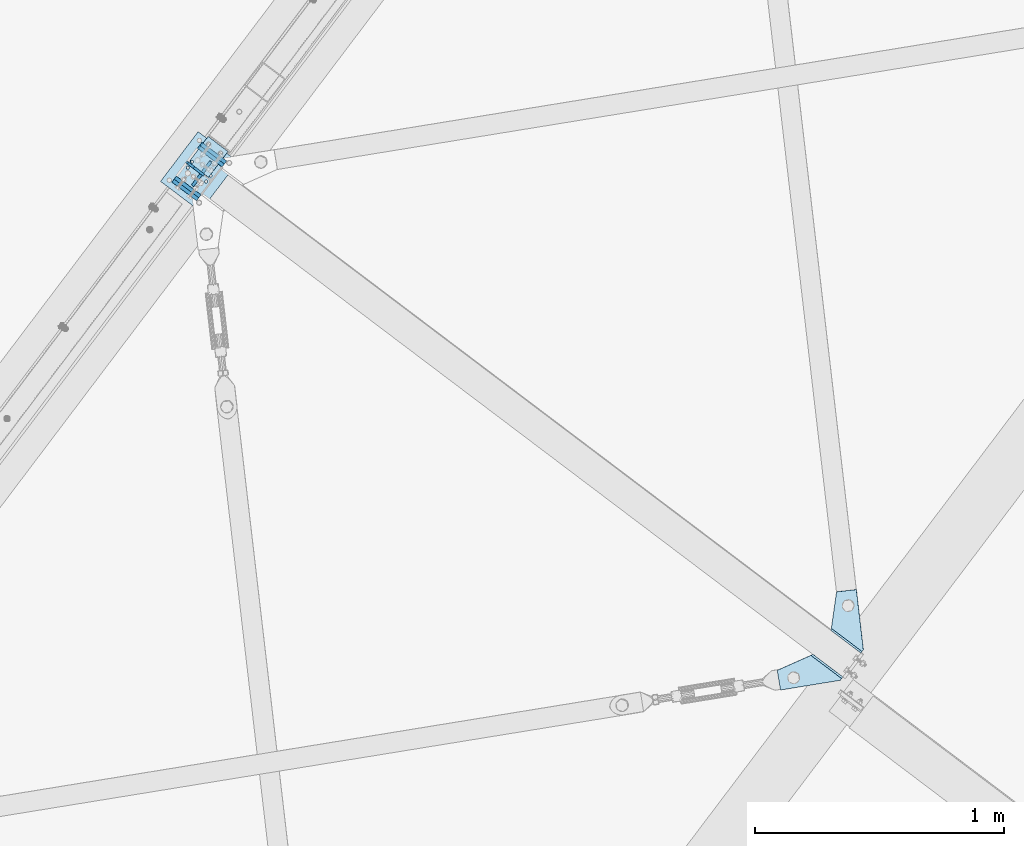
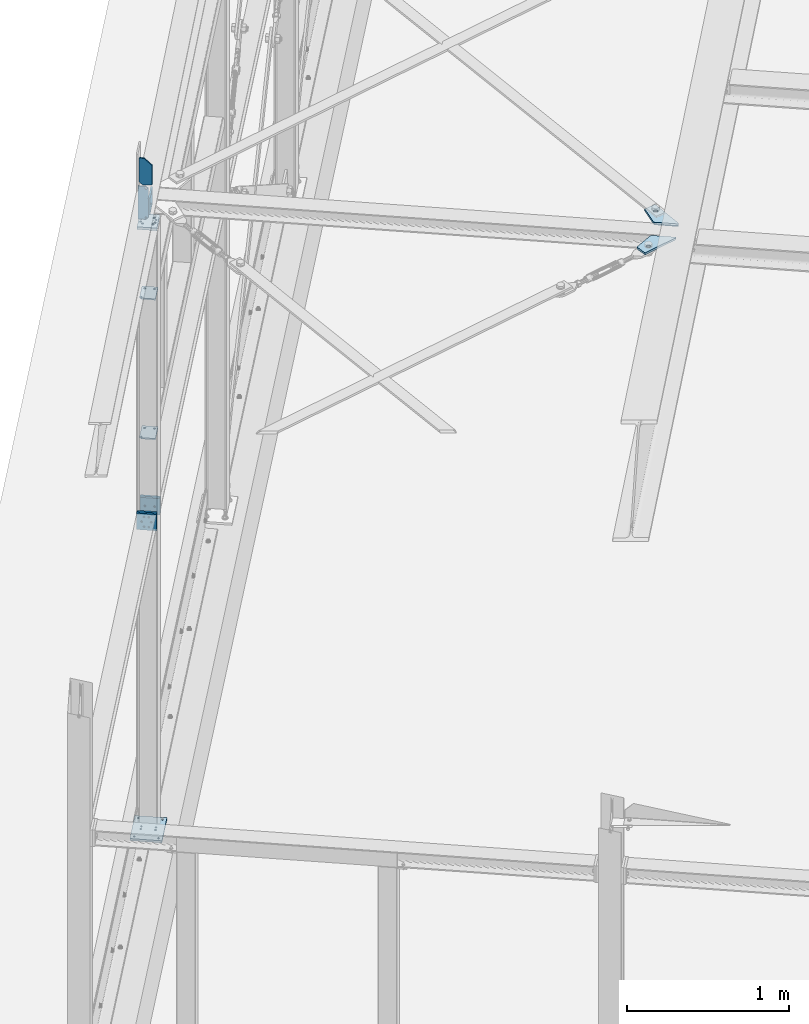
# One storey, part 56 of 476: 13 plates, 56 openings.
"""IFC2X3 building model written with IfcOpenShell, lengths in millimetres."""

from ifc_helpers import new_model, entity, si_unit, converted_unit, point, frame, frame_2d, origin, origin_with_axes, origin_2d_with_axis, place, context, project, spatial, polyline, circle_curve, line_curve, trimmed, segment, composite_curve, circle, outline, extrude, material, layer, layer_set, element, save


model = new_model("IFC2X3")

# Units and contexts
model_context = context("Model", 3, precision=1e-09, world=origin_with_axes())
ifc_project = project(units=[si_unit("LENGTHUNIT", "METRE", prefix="MILLI"), si_unit("AREAUNIT", "SQUARE_METRE"), si_unit("VOLUMEUNIT", "CUBIC_METRE"), converted_unit("PLANEANGLEUNIT", "DEGREE", entity("IfcPlaneAngleMeasure", 0.01745329), si_unit("PLANEANGLEUNIT", "RADIAN"), dimensions=[0, 0, 0, 0, 0, 0, 0])], contexts=[model_context])

# Site, building, storey
site_placement = place(None, origin_with_axes())
site = spatial("IfcSite", under=ifc_project, at=site_placement, Name="mKR Teilneubau & Sanierung BA1 - Ostfildern", CompositionType="ELEMENT")
building_placement = place(site_placement, origin_with_axes())
building = spatial("IfcBuilding", under=site, at=building_placement, Name="Struktur 1", CompositionType="ELEMENT")
storey_placement = place(building_placement, origin_with_axes())
storey = spatial("IfcBuildingStorey", under=building, at=storey_placement, Name="Default Storey", CompositionType="ELEMENT", Elevation=0.0)

# Plate, openings
ifc_material = material(Name="S235JR")
ifc_layer_1 = layer(ifc_material, 15.0)
ifc_layer_set_1 = layer_set([ifc_layer_1], Name="S235JR")
plate_1_placement = place(None, frame((4978.527899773, 855.35805484, 5319.737987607), z_axis=(-0.018098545, -0.02396011, 0.999549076), x_axis=(0.602462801, 0.797581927, 0.030027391)))
plate_1 = element("IfcPlate", 1, at=plate_1_placement, inside=storey, material=ifc_layer_set_1, Name="-", ObjectType="-", context=model_context, shape_type="SweptSolid", body=[
    extrude(outline(polyline([(0.0, 0.0), (16.761939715, 0.0), (192.636873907, 167.974256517), (137.382787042, 225.827096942), (1.572e-05, 149.999963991), (0.0, 0.0)])), origin_with_axes(), (0.0, 0.0, -1.0), 15.0),
])
opening_1_placement = place(plate_1_placement, frame((0.0, -0.000999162, 0.0), z_axis=(1.05e-07, 1.0, 0.0), x_axis=(1.0, -1.05e-07, 0.0)))
element("IfcOpeningElement", 2, at=opening_1_placement, cuts=plate_1, ObjectType="Opening", context=model_context, shape_type="SweptSolid", body=[
    extrude(outline(polyline([(0.0, 0.0), (8.0, 0.0), (0.0, 8.0), (0.0, 0.0)])), origin(), (0.0, 0.0, 1.0), 154.437489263),
])
opening_2_placement = place(plate_1_placement, frame((121.62025065, 155.460173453, -15.499849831), z_axis=(-7.613e-06, -7.271e-06, 1.0), x_axis=(-0.723163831, -0.690676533, -1.0527e-05)))
element("IfcOpeningElement", 3, at=opening_2_placement, cuts=plate_1, ObjectType="Opening", context=model_context, shape_type="SweptSolid", body=[
    extrude(circle(Radius=14.501, at=origin_2d_with_axis()), origin(), (0.0, 0.0, 1.0), 16.000000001),
])

plate_2_placement = place(None, frame((4906.231146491, 759.647099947, 5316.134651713), z_axis=(0.018098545, 0.02396011, -0.999549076), x_axis=(-0.602462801, -0.797581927, -0.030027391)))
plate_2 = element("IfcPlate", 4, at=plate_2_placement, inside=storey, material=ifc_layer_set_1, Name="-", ObjectType="-", context=model_context, shape_type="SweptSolid", body=[
    extrude(outline(polyline([(0.0, 0.0), (16.761939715, 0.0), (192.636873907, 167.974256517), (137.382787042, 225.827096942), (1.572e-05, 149.999963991), (0.0, 0.0)])), origin_with_axes(), (0.0, 0.0, 1.0), 15.0),
])
opening_3_placement = place(plate_2_placement, frame((1.6183e-05, 154.416490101, 0.0), z_axis=(-1.05e-07, -1.0, 0.0), x_axis=(1.0, -1.05e-07, 0.0)))
element("IfcOpeningElement", 5, at=opening_3_placement, cuts=plate_2, ObjectType="Opening", context=model_context, shape_type="SweptSolid", body=[
    extrude(outline(polyline([(0.0, 0.0), (8.0, 0.0), (0.0, 8.0), (0.0, 0.0)])), origin(), (0.0, 0.0, 1.0), 154.437489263),
])
opening_4_placement = place(plate_2_placement, frame((132.106849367, 165.475673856, 15.499697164), z_axis=(7.613e-06, 7.271e-06, 1.0), x_axis=(1.0, 0.0, -7.613e-06)))
element("IfcOpeningElement", 6, at=opening_4_placement, cuts=plate_2, ObjectType="Opening", context=model_context, shape_type="SweptSolid", body=[
    extrude(circle(Radius=14.501, at=frame_2d((-10.486598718, -10.015500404), x_axis=(1.0, 0.0))), origin(), (0.0, 0.0, -1.0), 16.000000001),
])

ifc_layer_2 = layer(ifc_material, 10.0)
ifc_layer_set_2 = layer_set([ifc_layer_2], Name="S235JR")
plate_3_placement = place(None, frame((2340.313940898, 2768.899537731, 5577.488173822), z_axis=(-0.602634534, -0.798017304, 0.0), x_axis=(-0.798017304, 0.602634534, 0.0)))
plate_3 = element("IfcPlate", 7, at=plate_3_placement, inside=storey, material=ifc_layer_set_2, Name="-", ObjectType="-", context=model_context, shape_type="SweptSolid", body=[
    extrude(outline(polyline([(0.0, 0.0), (80.0, 0.0), (80.0, 200.0), (0.0, 197.595559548), (0.0, 0.0)])), origin_with_axes(), (0.0, 0.0, -1.0), 10.0),
])
opening_5_placement = place(plate_3_placement, frame((0.0, 0.0, 0.01), z_axis=(0.0, 0.0, 1.0), x_axis=(1.0, 0.0, 0.0)))
element("IfcOpeningElement", 8, at=opening_5_placement, cuts=plate_3, ObjectType="Opening", context=model_context, shape_type="SweptSolid", body=[
    extrude(outline(polyline([(0.0, 0.0), (50.0, 0.0), (0.0, 50.0), (0.0, 0.0)])), origin(), (0.0, 0.0, -1.0), 10.02),
])
opening_6_placement = place(plate_3_placement, frame((80.0, 200.0, 0.01), z_axis=(0.0, 0.0, 1.0), x_axis=(-0.999548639, -0.03004194, 0.0)))
element("IfcOpeningElement", 9, at=opening_6_placement, cuts=plate_3, ObjectType="Opening", context=model_context, shape_type="SweptSolid", body=[
    extrude(outline(polyline([(0.0, 0.0), (20.0, 0.0), (0.600838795, 19.990972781), (0.0, 0.0)])), origin(), (0.0, 0.0, -1.0), 10.02),
])

plate_4_placement = place(None, frame((2363.114522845, 2931.814026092, 4520.0), z_axis=(0.0, 0.0, 1.0), x_axis=(-0.602734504, -0.797941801, 0.0)))
plate_4 = element("IfcPlate", 10, at=plate_4_placement, inside=storey, material=ifc_layer_set_2, Name="-", ObjectType="-", context=model_context, shape_type="SweptSolid", body=[
    extrude(outline(polyline([(5.0, 0.0), (135.0, 0.0), (135.0, 100.0), (5.0, 100.0), (5.0, 0.0)])), origin_with_axes(), (0.0, 0.0, -1.0), 10.0),
])
opening_7_placement = place(plate_4_placement, frame((135.0, 0.0, 0.01), z_axis=(0.0, 0.0, 1.0), x_axis=(0.0, 1.0, 0.0)))
element("IfcOpeningElement", 11, at=opening_7_placement, cuts=plate_4, ObjectType="Opening", context=model_context, shape_type="SweptSolid", body=[
    extrude(outline(composite_curve([segment(trimmed(line_curve((0.0, 0.0), (1.0, 0.0), 13.0), [point((0.0, 0.0))], [point((13.0, 0.0))], True, "CARTESIAN"), True, "CONTINUOUS"), segment(trimmed(circle_curve(frame_2d((13.0, 13.0), x_axis=(-1.0, 0.0)), 13.0), [point((13.0, 0.0))], [point((0.0, 13.0))], False, "CARTESIAN"), True, "CONTINUOUS"), segment(trimmed(line_curve((0.0, 13.0), (0.0, -1.0), 13.0), [point((0.0, 13.0))], [point((0.0, 0.0))], True, "CARTESIAN"), True, "CONTINUOUS")], self_intersect=False)), origin(), (0.0, 0.0, -1.0), 10.02),
])
opening_8_placement = place(plate_4_placement, frame((124.0, 15.501, 0.5), z_axis=(0.0, 0.0, 1.0), x_axis=(1.0, 0.0, 0.0)))
element("IfcOpeningElement", 12, at=opening_8_placement, cuts=plate_4, ObjectType="Opening", context=model_context, shape_type="SweptSolid", body=[
    extrude(circle(Radius=5.001, at=frame_2d((0.0, -5.001), x_axis=(1.0, 0.0))), origin(), (0.0, 0.0, -1.0), 11.0),
])
opening_9_placement = place(plate_4_placement, frame((35.751, 80.0, -10.5), z_axis=(0.0, 0.0, -1.0), x_axis=(-1.0, 0.0, 0.0)))
element("IfcOpeningElement", 13, at=opening_9_placement, cuts=plate_4, ObjectType="Opening", context=model_context, shape_type="SweptSolid", body=[
    extrude(circle(Radius=7.001, at=frame_2d((7.001, 0.0), x_axis=(1.0, 0.0))), origin(), (0.0, 0.0, -1.0), 11.0),
])
opening_10_placement = place(plate_4_placement, frame((35.751, 20.0, -10.5), z_axis=(0.0, 0.0, -1.0), x_axis=(-1.0, 0.0, 0.0)))
element("IfcOpeningElement", 14, at=opening_10_placement, cuts=plate_4, ObjectType="Opening", context=model_context, shape_type="SweptSolid", body=[
    extrude(circle(Radius=7.001, at=frame_2d((7.001, 0.0), x_axis=(1.0, 0.0))), origin(), (0.0, 0.0, -1.0), 11.0),
])

plate_5_placement = place(None, frame((2363.114522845, 2931.814026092, 3470.0), z_axis=(0.0, 0.0, 1.0), x_axis=(-0.602734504, -0.797941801, 0.0)))
plate_5 = element("IfcPlate", 15, at=plate_5_placement, inside=storey, material=ifc_layer_set_2, Name="-", ObjectType="-", context=model_context, shape_type="SweptSolid", body=[
    extrude(outline(polyline([(5.0, 0.0), (135.0, 0.0), (135.0, 100.0), (5.0, 100.0), (5.0, 0.0)])), origin_with_axes(), (0.0, 0.0, -1.0), 10.0),
])
opening_11_placement = place(plate_5_placement, frame((135.0, 0.0, 0.01), z_axis=(0.0, 0.0, 1.0), x_axis=(0.0, 1.0, 0.0)))
element("IfcOpeningElement", 16, at=opening_11_placement, cuts=plate_5, ObjectType="Opening", context=model_context, shape_type="SweptSolid", body=[
    extrude(outline(composite_curve([segment(trimmed(line_curve((0.0, 0.0), (1.0, 0.0), 13.0), [point((0.0, 0.0))], [point((13.0, 0.0))], True, "CARTESIAN"), True, "CONTINUOUS"), segment(trimmed(circle_curve(frame_2d((13.0, 13.0), x_axis=(-1.0, 0.0)), 13.0), [point((13.0, 0.0))], [point((0.0, 13.0))], False, "CARTESIAN"), True, "CONTINUOUS"), segment(trimmed(line_curve((0.0, 13.0), (0.0, -1.0), 13.0), [point((0.0, 13.0))], [point((0.0, 0.0))], True, "CARTESIAN"), True, "CONTINUOUS")], self_intersect=False)), origin(), (0.0, 0.0, -1.0), 10.02),
])
opening_12_placement = place(plate_5_placement, frame((124.0, 15.501, 0.5), z_axis=(0.0, 0.0, 1.0), x_axis=(1.0, 0.0, 0.0)))
element("IfcOpeningElement", 17, at=opening_12_placement, cuts=plate_5, ObjectType="Opening", context=model_context, shape_type="SweptSolid", body=[
    extrude(circle(Radius=5.001, at=frame_2d((0.0, -5.001), x_axis=(1.0, 0.0))), origin(), (0.0, 0.0, -1.0), 11.0),
])
opening_13_placement = place(plate_5_placement, frame((35.751, 80.0, -10.5), z_axis=(0.0, 0.0, -1.0), x_axis=(-1.0, 0.0, 0.0)))
element("IfcOpeningElement", 18, at=opening_13_placement, cuts=plate_5, ObjectType="Opening", context=model_context, shape_type="SweptSolid", body=[
    extrude(circle(Radius=7.001, at=frame_2d((7.001, 0.0), x_axis=(1.0, 0.0))), origin(), (0.0, 0.0, -1.0), 11.0),
])
opening_14_placement = place(plate_5_placement, frame((35.751, 20.0, -10.5), z_axis=(0.0, 0.0, -1.0), x_axis=(-1.0, 0.0, 0.0)))
element("IfcOpeningElement", 19, at=opening_14_placement, cuts=plate_5, ObjectType="Opening", context=model_context, shape_type="SweptSolid", body=[
    extrude(circle(Radius=7.001, at=frame_2d((7.001, 0.0), x_axis=(1.0, 0.0))), origin(), (0.0, 0.0, -1.0), 11.0),
])

plate_6_placement = place(None, frame((2321.715421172, 2782.93568329, 5119.672074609), z_axis=(0.602734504, 0.797941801, 0.0), x_axis=(-0.797941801, 0.602734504, 0.0)))
plate_6 = element("IfcPlate", 20, at=plate_6_placement, inside=storey, material=ifc_layer_set_2, Name="Stiffener#2", ObjectType="Stiffener#2", context=model_context, shape_type="SweptSolid", body=[
    extrude(outline(polyline([(0.0, 0.0), (65.0, 0.0), (65.0, 246.410800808), (0.0, 246.410800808), (0.0, 0.0)])), origin_with_axes(), (0.0, 0.0, 1.0), 10.0),
])
opening_15_placement = place(plate_6_placement, frame((0.0, 0.0, -0.01), z_axis=(0.0, 0.0, 1.0), x_axis=(1.0, 0.0, 0.0)))
element("IfcOpeningElement", 21, at=opening_15_placement, cuts=plate_6, ObjectType="Opening", context=model_context, shape_type="SweptSolid", body=[
    extrude(outline(composite_curve([segment(trimmed(line_curve((0.0, 246.410800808), (0.0, -1.0), 15.0), [point((0.0, 246.410800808))], [point((0.0, 231.410800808))], True, "CARTESIAN"), True, "CONTINUOUS"), segment(trimmed(circle_curve(frame_2d((15.0, 231.410800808), x_axis=(-1.0, 0.0)), 15.0), [point((0.0, 231.410800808))], [point((15.0, 246.410800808))], False, "CARTESIAN"), True, "CONTINUOUS"), segment(trimmed(line_curve((15.0, 246.410800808), (-1.0, 0.0), 15.0), [point((15.0, 246.410800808))], [point((0.0, 246.410800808))], True, "CARTESIAN"), True, "CONTINUOUS")], self_intersect=False)), origin(), (0.0, 0.0, 1.0), 10.02),
])
opening_16_placement = place(plate_6_placement, frame((0.0, 0.0, -0.01), z_axis=(0.0, 0.0, 1.0), x_axis=(1.0, 0.0, 0.0)))
element("IfcOpeningElement", 22, at=opening_16_placement, cuts=plate_6, ObjectType="Opening", context=model_context, shape_type="SweptSolid", body=[
    extrude(outline(composite_curve([segment(trimmed(line_curve((0.0, 0.0), (1.0, 0.0), 15.0), [point((0.0, 0.0))], [point((15.0, 0.0))], True, "CARTESIAN"), True, "CONTINUOUS"), segment(trimmed(circle_curve(frame_2d((15.0, 15.0), x_axis=(-1.0, 0.0)), 15.0), [point((15.0, 0.0))], [point((0.0, 15.0))], False, "CARTESIAN"), True, "CONTINUOUS"), segment(trimmed(line_curve((0.0, 15.0), (0.0, -1.0), 15.0), [point((0.0, 15.0))], [point((0.0, 0.0))], True, "CARTESIAN"), True, "CONTINUOUS")], self_intersect=False)), origin(), (0.0, 0.0, 1.0), 10.02),
])
opening_17_placement = place(plate_6_placement, frame((15.0, 13.499322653, -0.5), z_axis=(0.0, 0.0, 1.0), x_axis=(0.0, -1.0, 0.0)))
element("IfcOpeningElement", 23, at=opening_17_placement, cuts=plate_6, ObjectType="Opening", context=model_context, shape_type="SweptSolid", body=[
    extrude(circle(Radius=7.001, at=origin_2d_with_axis()), origin(), (0.0, 0.0, 1.0), 11.0),
])
opening_18_placement = place(plate_6_placement, frame((15.0, 233.212033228, -0.5), z_axis=(0.0, 0.0, 1.0), x_axis=(0.0, -1.0, 0.0)))
element("IfcOpeningElement", 24, at=opening_18_placement, cuts=plate_6, ObjectType="Opening", context=model_context, shape_type="SweptSolid", body=[
    extrude(circle(Radius=7.001, at=origin_2d_with_axis()), origin(), (0.0, 0.0, 1.0), 11.0),
])

plate_7_placement = place(None, frame((2169.433415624, 2747.576637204, 540.0), z_axis=(0.0, 0.0, -1.0), x_axis=(0.602734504, 0.797941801, 0.0)))
plate_7 = element("IfcPlate", 25, at=plate_7_placement, inside=storey, material=ifc_layer_set_1, Name="Baseplate", ObjectType="Baseplate", context=model_context, shape_type="SweptSolid", body=[
    extrude(outline(polyline([(0.0, 0.0), (250.0, 0.0), (250.0, 200.0), (0.0, 200.0), (0.0, 0.0)])), origin_with_axes(), (0.0, 0.0, 1.0), 15.0),
])
opening_19_placement = place(plate_7_placement, frame((139.75, 146.0, 15.5), z_axis=(0.0, 0.0, -1.0), x_axis=(0.0, 1.0, 0.0)))
element("IfcOpeningElement", 26, at=opening_19_placement, cuts=plate_7, ObjectType="Opening", context=model_context, shape_type="SweptSolid", body=[
    extrude(circle(Radius=6.001, at=origin_2d_with_axis()), origin(), (0.0, 0.0, 1.0), 16.0),
])
opening_20_placement = place(plate_7_placement, frame((139.75, 54.0, 15.5), z_axis=(0.0, 0.0, -1.0), x_axis=(0.0, 1.0, 0.0)))
element("IfcOpeningElement", 27, at=opening_20_placement, cuts=plate_7, ObjectType="Opening", context=model_context, shape_type="SweptSolid", body=[
    extrude(circle(Radius=6.001, at=origin_2d_with_axis()), origin(), (0.0, 0.0, 1.0), 16.0),
])
opening_21_placement = place(plate_7_placement, frame((110.25, 54.0, 15.5), z_axis=(0.0, 0.0, -1.0), x_axis=(0.0, 1.0, 0.0)))
element("IfcOpeningElement", 28, at=opening_21_placement, cuts=plate_7, ObjectType="Opening", context=model_context, shape_type="SweptSolid", body=[
    extrude(circle(Radius=6.001, at=origin_2d_with_axis()), origin(), (0.0, 0.0, 1.0), 16.0),
])
opening_22_placement = place(plate_7_placement, frame((110.25, 146.0, 15.5), z_axis=(0.0, 0.0, -1.0), x_axis=(0.0, 1.0, 0.0)))
element("IfcOpeningElement", 29, at=opening_22_placement, cuts=plate_7, ObjectType="Opening", context=model_context, shape_type="SweptSolid", body=[
    extrude(circle(Radius=6.001, at=origin_2d_with_axis()), origin(), (0.0, 0.0, 1.0), 16.0),
])
opening_23_placement = place(plate_7_placement, frame((125.0, 100.0, 15.5), z_axis=(0.0, 0.0, -1.0), x_axis=(1.0, 0.0, 0.0)))
element("IfcOpeningElement", 30, at=opening_23_placement, cuts=plate_7, ObjectType="Opening", context=model_context, shape_type="SweptSolid", body=[
    extrude(circle(Radius=6.001, at=frame_2d((100.0, 75.0), x_axis=(1.0, 0.0))), origin(), (0.0, 0.0, 1.0), 16.0),
])
opening_24_placement = place(plate_7_placement, frame((125.0, 100.0, 15.5), z_axis=(0.0, 0.0, -1.0), x_axis=(1.0, 0.0, 0.0)))
element("IfcOpeningElement", 31, at=opening_24_placement, cuts=plate_7, ObjectType="Opening", context=model_context, shape_type="SweptSolid", body=[
    extrude(circle(Radius=6.001, at=frame_2d((-100.0, 75.0), x_axis=(1.0, 0.0))), origin(), (0.0, 0.0, 1.0), 16.0),
])
opening_25_placement = place(plate_7_placement, frame((125.0, 100.0, 15.5), z_axis=(0.0, 0.0, -1.0), x_axis=(1.0, 0.0, 0.0)))
element("IfcOpeningElement", 32, at=opening_25_placement, cuts=plate_7, ObjectType="Opening", context=model_context, shape_type="SweptSolid", body=[
    extrude(circle(Radius=6.001, at=frame_2d((100.0, -75.0), x_axis=(1.0, 0.0))), origin(), (0.0, 0.0, 1.0), 16.0),
])
opening_26_placement = place(plate_7_placement, frame((125.0, 100.0, 15.5), z_axis=(0.0, 0.0, -1.0), x_axis=(1.0, 0.0, 0.0)))
element("IfcOpeningElement", 33, at=opening_26_placement, cuts=plate_7, ObjectType="Opening", context=model_context, shape_type="SweptSolid", body=[
    extrude(circle(Radius=6.001, at=frame_2d((-100.0, -75.0), x_axis=(1.0, 0.0))), origin(), (0.0, 0.0, 1.0), 16.0),
])

plate_8_placement = place(None, frame((2264.295990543, 2707.251707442, 2912.000000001), z_axis=(0.602734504, 0.797941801, 0.0), x_axis=(0.0, 0.0, -1.0)))
plate_8 = element("IfcPlate", 34, at=plate_8_placement, inside=storey, material=ifc_layer_set_1, Name="Endplate#1", ObjectType="Endplate#1", context=model_context, shape_type="SweptSolid", body=[
    extrude(outline(polyline([(-62.0, -62.0), (62.0, -62.0), (62.0, 62.0), (-62.0, 62.0), (-62.0, -62.0)])), origin_with_axes(), (0.0, 0.0, 1.0), 15.0),
])
opening_27_placement = place(plate_8_placement, frame((-37.0, -14.5, 15.5), z_axis=(0.0, 0.0, -1.0), x_axis=(1.0, 0.0, 0.0)))
element("IfcOpeningElement", 35, at=opening_27_placement, cuts=plate_8, ObjectType="Opening", context=model_context, shape_type="SweptSolid", body=[
    extrude(circle(Radius=6.001, at=origin_2d_with_axis()), origin(), (0.0, 0.0, 1.0), 16.0),
])
opening_28_placement = place(plate_8_placement, frame((37.0, -14.5, 15.5), z_axis=(0.0, 0.0, -1.0), x_axis=(1.0, 0.0, 0.0)))
element("IfcOpeningElement", 36, at=opening_28_placement, cuts=plate_8, ObjectType="Opening", context=model_context, shape_type="SweptSolid", body=[
    extrude(circle(Radius=6.001, at=origin_2d_with_axis()), origin(), (0.0, 0.0, 1.0), 16.0),
])
opening_29_placement = place(plate_8_placement, frame((37.0, 14.5, 15.5), z_axis=(0.0, 0.0, -1.0), x_axis=(1.0, 0.0, 0.0)))
element("IfcOpeningElement", 37, at=opening_29_placement, cuts=plate_8, ObjectType="Opening", context=model_context, shape_type="SweptSolid", body=[
    extrude(circle(Radius=6.001, at=origin_2d_with_axis()), origin(), (0.0, 0.0, 1.0), 16.0),
])
opening_30_placement = place(plate_8_placement, frame((-37.0, 14.5, 15.5), z_axis=(0.0, 0.0, -1.0), x_axis=(1.0, 0.0, 0.0)))
element("IfcOpeningElement", 38, at=opening_30_placement, cuts=plate_8, ObjectType="Opening", context=model_context, shape_type="SweptSolid", body=[
    extrude(circle(Radius=6.001, at=origin_2d_with_axis()), origin(), (0.0, 0.0, 1.0), 16.0),
])
opening_31_placement = place(plate_8_placement, frame((0.0, 30.0, 15.5), z_axis=(0.0, 0.0, -1.0), x_axis=(-1.0, 0.0, 0.0)))
element("IfcOpeningElement", 39, at=opening_31_placement, cuts=plate_8, ObjectType="Opening", context=model_context, shape_type="SweptSolid", body=[
    extrude(circle(Radius=7.001, at=origin_2d_with_axis()), origin(), (0.0, 0.0, 1.0), 16.0),
])
opening_32_placement = place(plate_8_placement, frame((0.0, -30.0, 15.5), z_axis=(0.0, 0.0, -1.0), x_axis=(0.0, -1.0, 0.0)))
element("IfcOpeningElement", 40, at=opening_32_placement, cuts=plate_8, ObjectType="Opening", context=model_context, shape_type="SweptSolid", body=[
    extrude(circle(Radius=7.001, at=origin_2d_with_axis()), origin(), (0.0, 0.0, 1.0), 16.0),
])

plate_9_placement = place(None, frame((2282.377993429, 2731.189985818, 2912.000000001), z_axis=(-0.602734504, -0.797941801, 0.0), x_axis=(-0.797941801, 0.602734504, 0.0)))
plate_9 = element("IfcPlate", 41, at=plate_9_placement, inside=storey, material=ifc_layer_set_1, Name="T-plate", ObjectType="T-plate", context=model_context, shape_type="SweptSolid", body=[
    extrude(outline(polyline([(-62.0, -62.0), (62.0, -62.0), (62.0, 62.0), (-62.0, 62.0), (-62.0, -62.0)])), origin_with_axes(), (0.0, 0.0, 1.0), 15.0),
])
opening_33_placement = place(plate_9_placement, frame((-30.000040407, 0.0, -0.5), z_axis=(0.0, 0.0, 1.0), x_axis=(-1.0, 0.0, 0.0)))
element("IfcOpeningElement", 42, at=opening_33_placement, cuts=plate_9, ObjectType="Opening", context=model_context, shape_type="SweptSolid", body=[
    extrude(circle(Radius=7.001, at=origin_2d_with_axis()), origin(), (0.0, 0.0, 1.0), 16.0),
])
opening_34_placement = place(plate_9_placement, frame((29.999959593, 0.0, -0.5), z_axis=(0.0, 0.0, 1.0), x_axis=(0.0, -1.0, 0.0)))
element("IfcOpeningElement", 43, at=opening_34_placement, cuts=plate_9, ObjectType="Opening", context=model_context, shape_type="SweptSolid", body=[
    extrude(circle(Radius=7.001, at=origin_2d_with_axis()), origin(), (0.0, 0.0, 1.0), 16.0),
])

plate_10_placement = place(None, frame((2384.842891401, 2866.840067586, 2912.000000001), z_axis=(-0.602734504, -0.797941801, 0.0), x_axis=(0.0, 0.0, -1.0)))
plate_10 = element("IfcPlate", 44, at=plate_10_placement, inside=storey, material=ifc_layer_set_1, Name="Endplate#1", ObjectType="Endplate#1", context=model_context, shape_type="SweptSolid", body=[
    extrude(outline(polyline([(-62.0, -62.0), (62.0, -62.0), (62.0, 62.0), (-62.0, 62.0), (-62.0, -62.0)])), origin_with_axes(), (0.0, 0.0, 1.0), 15.0),
])
opening_35_placement = place(plate_10_placement, frame((-37.0, 14.5, 15.5), z_axis=(0.0, 0.0, -1.0), x_axis=(-1.0, 0.0, 0.0)))
element("IfcOpeningElement", 45, at=opening_35_placement, cuts=plate_10, ObjectType="Opening", context=model_context, shape_type="SweptSolid", body=[
    extrude(circle(Radius=6.001, at=origin_2d_with_axis()), origin(), (0.0, 0.0, 1.0), 16.0),
])
opening_36_placement = place(plate_10_placement, frame((37.0, 14.5, 15.5), z_axis=(0.0, 0.0, -1.0), x_axis=(-1.0, 0.0, 0.0)))
element("IfcOpeningElement", 46, at=opening_36_placement, cuts=plate_10, ObjectType="Opening", context=model_context, shape_type="SweptSolid", body=[
    extrude(circle(Radius=6.001, at=origin_2d_with_axis()), origin(), (0.0, 0.0, 1.0), 16.0),
])
opening_37_placement = place(plate_10_placement, frame((37.0, -14.5, 15.5), z_axis=(0.0, 0.0, -1.0), x_axis=(-1.0, 0.0, 0.0)))
element("IfcOpeningElement", 47, at=opening_37_placement, cuts=plate_10, ObjectType="Opening", context=model_context, shape_type="SweptSolid", body=[
    extrude(circle(Radius=6.001, at=origin_2d_with_axis()), origin(), (0.0, 0.0, 1.0), 16.0),
])
opening_38_placement = place(plate_10_placement, frame((-37.0, -14.5, 15.5), z_axis=(0.0, 0.0, -1.0), x_axis=(-1.0, 0.0, 0.0)))
element("IfcOpeningElement", 48, at=opening_38_placement, cuts=plate_10, ObjectType="Opening", context=model_context, shape_type="SweptSolid", body=[
    extrude(circle(Radius=6.001, at=origin_2d_with_axis()), origin(), (0.0, 0.0, 1.0), 16.0),
])
opening_39_placement = place(plate_10_placement, frame((0.0, -30.0, 15.5), z_axis=(0.0, 0.0, -1.0), x_axis=(0.0, -1.0, 0.0)))
element("IfcOpeningElement", 49, at=opening_39_placement, cuts=plate_10, ObjectType="Opening", context=model_context, shape_type="SweptSolid", body=[
    extrude(circle(Radius=7.001, at=origin_2d_with_axis()), origin(), (0.0, 0.0, 1.0), 16.0),
])
opening_40_placement = place(plate_10_placement, frame((0.0, 30.0, 15.5), z_axis=(0.0, 0.0, -1.0), x_axis=(-1.0, 0.0, 0.0)))
element("IfcOpeningElement", 50, at=opening_40_placement, cuts=plate_10, ObjectType="Opening", context=model_context, shape_type="SweptSolid", body=[
    extrude(circle(Radius=7.001, at=origin_2d_with_axis()), origin(), (0.0, 0.0, 1.0), 16.0),
])

plate_11_placement = place(None, frame((2366.76082403, 2842.901837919, 2912.000000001), z_axis=(0.602734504, 0.797941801, 0.0), x_axis=(0.797941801, -0.602734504, 0.0)))
plate_11 = element("IfcPlate", 51, at=plate_11_placement, inside=storey, material=ifc_layer_set_1, Name="T-plate", ObjectType="T-plate", context=model_context, shape_type="SweptSolid", body=[
    extrude(outline(polyline([(-62.0, -62.0), (62.0, -62.0), (62.0, 62.0), (-62.0, 62.0), (-62.0, -62.0)])), origin_with_axes(), (0.0, 0.0, 1.0), 15.0),
])
opening_41_placement = place(plate_11_placement, frame((-29.999959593, 0.0, -0.5), z_axis=(0.0, 0.0, 1.0), x_axis=(-1.0, 0.0, 0.0)))
element("IfcOpeningElement", 52, at=opening_41_placement, cuts=plate_11, ObjectType="Opening", context=model_context, shape_type="SweptSolid", body=[
    extrude(circle(Radius=7.001, at=origin_2d_with_axis()), origin(), (0.0, 0.0, 1.0), 16.0),
])
opening_42_placement = place(plate_11_placement, frame((30.000040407, 0.0, -0.5), z_axis=(0.0, 0.0, 1.0), x_axis=(0.0, -1.0, 0.0)))
element("IfcOpeningElement", 53, at=opening_42_placement, cuts=plate_11, ObjectType="Opening", context=model_context, shape_type="SweptSolid", body=[
    extrude(circle(Radius=7.001, at=origin_2d_with_axis()), origin(), (0.0, 0.0, 1.0), 16.0),
])

ifc_layer_3 = layer(ifc_material, 20.0)
ifc_layer_set_3 = layer_set([ifc_layer_3], Name="S235JR")
plate_12_placement = place(None, frame((2324.569408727, 2787.045911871, 5087.807480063), z_axis=(-0.018107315, -0.023971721, 0.999548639), x_axis=(0.797941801, -0.602734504, 0.0)))
plate_12 = element("IfcPlate", 54, at=plate_12_placement, inside=storey, material=ifc_layer_set_3, Name="Endplate", ObjectType="Endplate", context=model_context, shape_type="SweptSolid", body=[
    extrude(outline(polyline([(-61.5, -70.0), (61.5, -70.0), (61.5, 70.0), (-61.5, 70.0), (-61.5, -70.0)])), origin_with_axes(), (0.0, 0.0, 1.0), 20.0),
])
opening_43_placement = place(plate_12_placement, frame((46.0, 14.751241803, 20.5), z_axis=(0.0, 0.0, -1.0), x_axis=(-1.0, 0.0, 0.0)))
element("IfcOpeningElement", 55, at=opening_43_placement, cuts=plate_12, ObjectType="Opening", context=model_context, shape_type="SweptSolid", body=[
    extrude(circle(Radius=6.001, at=origin_2d_with_axis()), origin(), (0.0, 0.0, 1.0), 21.0),
])
opening_44_placement = place(plate_12_placement, frame((-46.0, 14.751241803, 20.5), z_axis=(0.0, 0.0, -1.0), x_axis=(-1.0, 0.0, 0.0)))
element("IfcOpeningElement", 56, at=opening_44_placement, cuts=plate_12, ObjectType="Opening", context=model_context, shape_type="SweptSolid", body=[
    extrude(circle(Radius=6.001, at=origin_2d_with_axis()), origin(), (0.0, 0.0, 1.0), 21.0),
])
opening_45_placement = place(plate_12_placement, frame((-46.0, -14.751241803, 20.5), z_axis=(0.0, 0.0, -1.0), x_axis=(-1.0, 0.0, 0.0)))
element("IfcOpeningElement", 57, at=opening_45_placement, cuts=plate_12, ObjectType="Opening", context=model_context, shape_type="SweptSolid", body=[
    extrude(circle(Radius=6.001, at=origin_2d_with_axis()), origin(), (0.0, 0.0, 1.0), 21.0),
])
opening_46_placement = place(plate_12_placement, frame((46.0, -14.751241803, 20.5), z_axis=(0.0, 0.0, -1.0), x_axis=(-1.0, 0.0, 0.0)))
element("IfcOpeningElement", 58, at=opening_46_placement, cuts=plate_12, ObjectType="Opening", context=model_context, shape_type="SweptSolid", body=[
    extrude(circle(Radius=6.001, at=origin_2d_with_axis()), origin(), (0.0, 0.0, 1.0), 21.0),
])
opening_47_placement = place(plate_12_placement, frame((-32.5, -25.499, -0.5), z_axis=(0.0, 0.0, -1.0), x_axis=(-1.0, 0.0, 0.0)))
element("IfcOpeningElement", 59, at=opening_47_placement, cuts=plate_12, ObjectType="Opening", context=model_context, shape_type="SweptSolid", body=[
    extrude(circle(Radius=7.001, at=frame_2d((0.0, -7.001), x_axis=(1.0, 0.0))), origin(), (0.0, 0.0, -1.0), 21.0),
])
opening_48_placement = place(plate_12_placement, frame((-32.5, 25.499, -0.5), z_axis=(0.0, 0.0, -1.0), x_axis=(-1.0, 0.0, 0.0)))
element("IfcOpeningElement", 60, at=opening_48_placement, cuts=plate_12, ObjectType="Opening", context=model_context, shape_type="SweptSolid", body=[
    extrude(circle(Radius=7.001, at=frame_2d((0.0, 7.001), x_axis=(1.0, 0.0))), origin(), (0.0, 0.0, -1.0), 21.0),
])
opening_49_placement = place(plate_12_placement, frame((32.5, -25.499, -0.5), z_axis=(0.0, 0.0, -1.0), x_axis=(-1.0, 0.0, 0.0)))
element("IfcOpeningElement", 61, at=opening_49_placement, cuts=plate_12, ObjectType="Opening", context=model_context, shape_type="SweptSolid", body=[
    extrude(circle(Radius=7.001, at=frame_2d((0.0, -7.001), x_axis=(1.0, 0.0))), origin(), (0.0, 0.0, -1.0), 21.0),
])
opening_50_placement = place(plate_12_placement, frame((32.5, 25.499, -0.5), z_axis=(0.0, 0.0, -1.0), x_axis=(-1.0, 0.0, 0.0)))
element("IfcOpeningElement", 62, at=opening_50_placement, cuts=plate_12, ObjectType="Opening", context=model_context, shape_type="SweptSolid", body=[
    extrude(circle(Radius=7.001, at=frame_2d((0.0, 7.001), x_axis=(1.0, 0.0))), origin(), (0.0, 0.0, -1.0), 21.0),
])

ifc_layer_4 = layer(ifc_material, 12.0)
ifc_layer_set_4 = layer_set([ifc_layer_4], Name="S235JR")
plate_13_placement = place(None, frame((2365.020544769, 2829.315918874, 5324.687225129), z_axis=(0.797941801, -0.602734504, 0.0), x_axis=(-0.602462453, -0.797581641, -0.030041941)))
plate_13 = element("IfcPlate", 63, at=plate_13_placement, inside=storey, material=ifc_layer_set_4, Name="Endplate", ObjectType="Endplate", context=model_context, shape_type="SweptSolid", body=[
    extrude(outline(polyline([(0.0, 0.0), (120.0, 0.0), (120.0, 124.0), (0.0, 124.0), (0.0, 0.0)])), origin_with_axes(), (0.0, 0.0, 1.0), 12.0),
])
opening_51_placement = place(plate_13_placement, frame((74.5, 99.0, -0.5), z_axis=(0.0, 0.0, 1.0), x_axis=(0.0, -1.0, 0.0)))
element("IfcOpeningElement", 64, at=opening_51_placement, cuts=plate_13, ObjectType="Opening", context=model_context, shape_type="SweptSolid", body=[
    extrude(circle(Radius=6.001, at=origin_2d_with_axis()), origin(), (0.0, 0.0, 1.0), 13.0),
])
opening_52_placement = place(plate_13_placement, frame((74.5, 25.0, -0.5), z_axis=(0.0, 0.0, 1.0), x_axis=(0.0, -1.0, 0.0)))
element("IfcOpeningElement", 65, at=opening_52_placement, cuts=plate_13, ObjectType="Opening", context=model_context, shape_type="SweptSolid", body=[
    extrude(circle(Radius=6.001, at=origin_2d_with_axis()), origin(), (0.0, 0.0, 1.0), 13.0),
])
opening_53_placement = place(plate_13_placement, frame((45.5, 25.0, -0.5), z_axis=(0.0, 0.0, 1.0), x_axis=(0.0, -1.0, 0.0)))
element("IfcOpeningElement", 66, at=opening_53_placement, cuts=plate_13, ObjectType="Opening", context=model_context, shape_type="SweptSolid", body=[
    extrude(circle(Radius=6.001, at=origin_2d_with_axis()), origin(), (0.0, 0.0, 1.0), 13.0),
])
opening_54_placement = place(plate_13_placement, frame((45.5, 99.0, -0.5), z_axis=(0.0, 0.0, 1.0), x_axis=(0.0, -1.0, 0.0)))
element("IfcOpeningElement", 67, at=opening_54_placement, cuts=plate_13, ObjectType="Opening", context=model_context, shape_type="SweptSolid", body=[
    extrude(circle(Radius=6.001, at=origin_2d_with_axis()), origin(), (0.0, 0.0, 1.0), 13.0),
])
opening_55_placement = place(plate_13_placement, frame((30.0, 62.0, -0.5), z_axis=(0.0, 0.0, 1.0), x_axis=(0.0, -1.0, 0.0)))
element("IfcOpeningElement", 68, at=opening_55_placement, cuts=plate_13, ObjectType="Opening", context=model_context, shape_type="SweptSolid", body=[
    extrude(circle(Radius=7.001, at=origin_2d_with_axis()), origin(), (0.0, 0.0, 1.0), 13.0),
])
opening_56_placement = place(plate_13_placement, frame((90.0, 62.0, -0.5), z_axis=(0.0, 0.0, 1.0), x_axis=(0.0, -1.0, 0.0)))
element("IfcOpeningElement", 69, at=opening_56_placement, cuts=plate_13, ObjectType="Opening", context=model_context, shape_type="SweptSolid", body=[
    extrude(circle(Radius=7.001, at=origin_2d_with_axis()), origin(), (0.0, 0.0, 1.0), 13.0),
])

save(model, "model.ifc")
